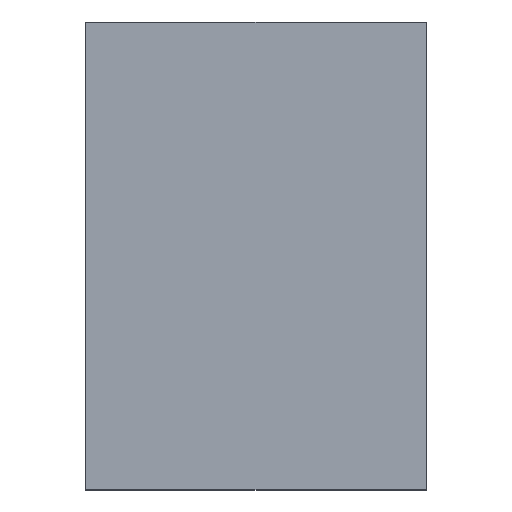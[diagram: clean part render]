
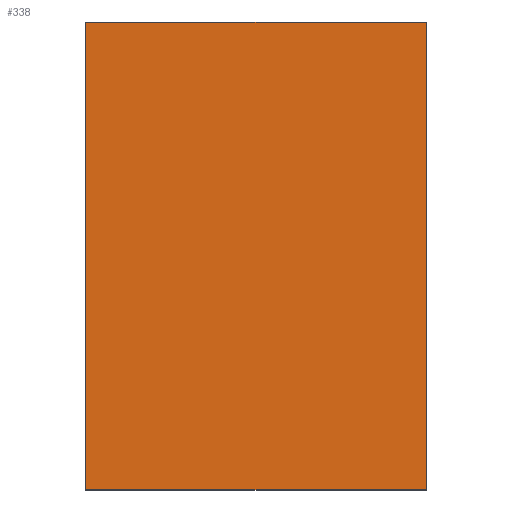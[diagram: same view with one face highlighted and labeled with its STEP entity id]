
A CAD part, top view. The second image highlights one B-rep face of the part: STEP entity #338.
In plain terms, the highlighted planar face has unit normal (0, 0, 1).
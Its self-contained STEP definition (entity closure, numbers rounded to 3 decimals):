
#24 = VERTEX_POINT('',#25);
#25 = CARTESIAN_POINT('',(-34.,-47.75,-8.));
#32 = PLANE('',#33);
#33 = AXIS2_PLACEMENT_3D('',#34,#35,#36);
#34 = CARTESIAN_POINT('',(-34.,-47.75,-28.));
#35 = DIRECTION('',(1.,0.,0.));
#36 = DIRECTION('',(0.,0.,1.));
#44 = PLANE('',#45);
#45 = AXIS2_PLACEMENT_3D('',#46,#47,#48);
#46 = CARTESIAN_POINT('',(-34.,-47.75,-28.));
#47 = DIRECTION('',(0.,1.,0.));
#48 = DIRECTION('',(0.,0.,1.));
#85 = VERTEX_POINT('',#86);
#86 = CARTESIAN_POINT('',(-34.,47.75,-8.));
#100 = PLANE('',#101);
#101 = AXIS2_PLACEMENT_3D('',#102,#103,#104);
#102 = CARTESIAN_POINT('',(-34.,47.75,-28.));
#103 = DIRECTION('',(0.,1.,0.));
#104 = DIRECTION('',(0.,0.,1.));
#112 = EDGE_CURVE('',#24,#85,#113,.T.);
#113 = SURFACE_CURVE('',#114,(#118,#125),.PCURVE_S1.);
#114 = LINE('',#115,#116);
#115 = CARTESIAN_POINT('',(-34.,-47.75,-8.));
#116 = VECTOR('',#117,1.);
#117 = DIRECTION('',(0.,1.,0.));
#118 = PCURVE('',#32,#119);
#119 = DEFINITIONAL_REPRESENTATION('',(#120),#124);
#120 = LINE('',#121,#122);
#121 = CARTESIAN_POINT('',(20.,0.));
#122 = VECTOR('',#123,1.);
#123 = DIRECTION('',(0.,-1.));
#124 = ( GEOMETRIC_REPRESENTATION_CONTEXT(2) 
PARAMETRIC_REPRESENTATION_CONTEXT() REPRESENTATION_CONTEXT('2D SPACE',''
  ) );
#125 = PCURVE('',#126,#131);
#126 = PLANE('',#127);
#127 = AXIS2_PLACEMENT_3D('',#128,#129,#130);
#128 = CARTESIAN_POINT('',(-34.,-47.75,-8.));
#129 = DIRECTION('',(0.,0.,1.));
#130 = DIRECTION('',(1.,0.,0.));
#131 = DEFINITIONAL_REPRESENTATION('',(#132),#136);
#132 = LINE('',#133,#134);
#133 = CARTESIAN_POINT('',(0.,0.));
#134 = VECTOR('',#135,1.);
#135 = DIRECTION('',(0.,1.));
#136 = ( GEOMETRIC_REPRESENTATION_CONTEXT(2) 
PARAMETRIC_REPRESENTATION_CONTEXT() REPRESENTATION_CONTEXT('2D SPACE',''
  ) );
#144 = VERTEX_POINT('',#145);
#145 = CARTESIAN_POINT('',(35.5,-47.75,-8.));
#152 = PLANE('',#153);
#153 = AXIS2_PLACEMENT_3D('',#154,#155,#156);
#154 = CARTESIAN_POINT('',(35.5,-47.75,-28.));
#155 = DIRECTION('',(1.,0.,0.));
#156 = DIRECTION('',(0.,0.,1.));
#195 = VERTEX_POINT('',#196);
#196 = CARTESIAN_POINT('',(35.5,47.75,-8.));
#217 = EDGE_CURVE('',#144,#195,#218,.T.);
#218 = SURFACE_CURVE('',#219,(#223,#230),.PCURVE_S1.);
#219 = LINE('',#220,#221);
#220 = CARTESIAN_POINT('',(35.5,-47.75,-8.));
#221 = VECTOR('',#222,1.);
#222 = DIRECTION('',(0.,1.,0.));
#223 = PCURVE('',#152,#224);
#224 = DEFINITIONAL_REPRESENTATION('',(#225),#229);
#225 = LINE('',#226,#227);
#226 = CARTESIAN_POINT('',(20.,0.));
#227 = VECTOR('',#228,1.);
#228 = DIRECTION('',(0.,-1.));
#229 = ( GEOMETRIC_REPRESENTATION_CONTEXT(2) 
PARAMETRIC_REPRESENTATION_CONTEXT() REPRESENTATION_CONTEXT('2D SPACE',''
  ) );
#230 = PCURVE('',#126,#231);
#231 = DEFINITIONAL_REPRESENTATION('',(#232),#236);
#232 = LINE('',#233,#234);
#233 = CARTESIAN_POINT('',(69.5,0.));
#234 = VECTOR('',#235,1.);
#235 = DIRECTION('',(0.,1.));
#236 = ( GEOMETRIC_REPRESENTATION_CONTEXT(2) 
PARAMETRIC_REPRESENTATION_CONTEXT() REPRESENTATION_CONTEXT('2D SPACE',''
  ) );
#263 = EDGE_CURVE('',#24,#144,#264,.T.);
#264 = SURFACE_CURVE('',#265,(#269,#276),.PCURVE_S1.);
#265 = LINE('',#266,#267);
#266 = CARTESIAN_POINT('',(-34.,-47.75,-8.));
#267 = VECTOR('',#268,1.);
#268 = DIRECTION('',(1.,0.,0.));
#269 = PCURVE('',#44,#270);
#270 = DEFINITIONAL_REPRESENTATION('',(#271),#275);
#271 = LINE('',#272,#273);
#272 = CARTESIAN_POINT('',(20.,0.));
#273 = VECTOR('',#274,1.);
#274 = DIRECTION('',(0.,1.));
#275 = ( GEOMETRIC_REPRESENTATION_CONTEXT(2) 
PARAMETRIC_REPRESENTATION_CONTEXT() REPRESENTATION_CONTEXT('2D SPACE',''
  ) );
#276 = PCURVE('',#126,#277);
#277 = DEFINITIONAL_REPRESENTATION('',(#278),#282);
#278 = LINE('',#279,#280);
#279 = CARTESIAN_POINT('',(0.,0.));
#280 = VECTOR('',#281,1.);
#281 = DIRECTION('',(1.,0.));
#282 = ( GEOMETRIC_REPRESENTATION_CONTEXT(2) 
PARAMETRIC_REPRESENTATION_CONTEXT() REPRESENTATION_CONTEXT('2D SPACE',''
  ) );
#310 = EDGE_CURVE('',#85,#195,#311,.T.);
#311 = SURFACE_CURVE('',#312,(#316,#323),.PCURVE_S1.);
#312 = LINE('',#313,#314);
#313 = CARTESIAN_POINT('',(-34.,47.75,-8.));
#314 = VECTOR('',#315,1.);
#315 = DIRECTION('',(1.,0.,0.));
#316 = PCURVE('',#100,#317);
#317 = DEFINITIONAL_REPRESENTATION('',(#318),#322);
#318 = LINE('',#319,#320);
#319 = CARTESIAN_POINT('',(20.,0.));
#320 = VECTOR('',#321,1.);
#321 = DIRECTION('',(0.,1.));
#322 = ( GEOMETRIC_REPRESENTATION_CONTEXT(2) 
PARAMETRIC_REPRESENTATION_CONTEXT() REPRESENTATION_CONTEXT('2D SPACE',''
  ) );
#323 = PCURVE('',#126,#324);
#324 = DEFINITIONAL_REPRESENTATION('',(#325),#329);
#325 = LINE('',#326,#327);
#326 = CARTESIAN_POINT('',(0.,95.5));
#327 = VECTOR('',#328,1.);
#328 = DIRECTION('',(1.,0.));
#329 = ( GEOMETRIC_REPRESENTATION_CONTEXT(2) 
PARAMETRIC_REPRESENTATION_CONTEXT() REPRESENTATION_CONTEXT('2D SPACE',''
  ) );
#338 = ADVANCED_FACE('',(#339),#126,.T.);
#339 = FACE_BOUND('',#340,.T.);
#340 = EDGE_LOOP('',(#341,#342,#343,#344));
#341 = ORIENTED_EDGE('',*,*,#112,.F.);
#342 = ORIENTED_EDGE('',*,*,#263,.T.);
#343 = ORIENTED_EDGE('',*,*,#217,.T.);
#344 = ORIENTED_EDGE('',*,*,#310,.F.);
